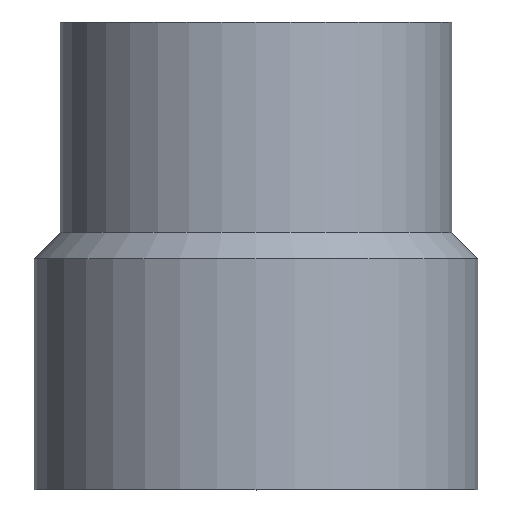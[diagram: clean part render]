
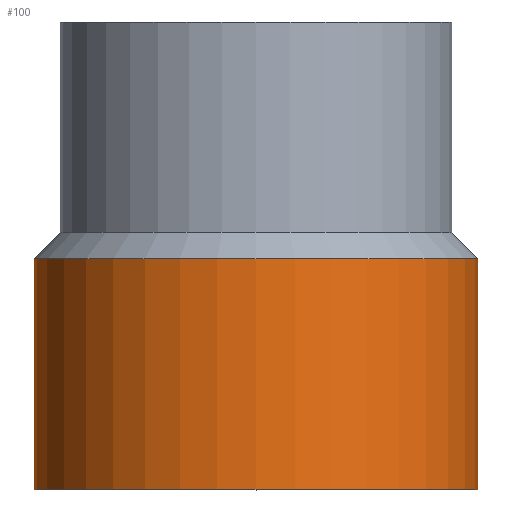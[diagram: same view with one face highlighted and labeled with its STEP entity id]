
A CAD part, top view. The second image highlights one B-rep face of the part: STEP entity #100.
In plain terms, the highlighted cylindrical face has radius 38 mm (diameter 76 mm), a full revolution.
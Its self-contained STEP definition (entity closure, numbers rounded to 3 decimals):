
#21=CYLINDRICAL_SURFACE('',#112,38.);
#26=FACE_BOUND('',#44,.T.);
#34=FACE_OUTER_BOUND('',#43,.T.);
#43=EDGE_LOOP('',(#83));
#44=EDGE_LOOP('',(#84));
#57=CIRCLE('',#110,38.);
#59=CIRCLE('',#113,38.);
#65=VERTEX_POINT('',#167);
#67=VERTEX_POINT('',#172);
#73=EDGE_CURVE('',#65,#65,#57,.T.);
#75=EDGE_CURVE('',#67,#67,#59,.T.);
#83=ORIENTED_EDGE('',*,*,#75,.F.);
#84=ORIENTED_EDGE('',*,*,#73,.T.);
#100=ADVANCED_FACE('',(#34,#26),#21,.T.);
#110=AXIS2_PLACEMENT_3D('',#168,#131,#132);
#112=AXIS2_PLACEMENT_3D('',#171,#135,#136);
#113=AXIS2_PLACEMENT_3D('',#173,#137,#138);
#131=DIRECTION('center_axis',(0.,1.,0.));
#132=DIRECTION('ref_axis',(-1.,0.,0.));
#135=DIRECTION('center_axis',(0.,1.,0.));
#136=DIRECTION('ref_axis',(-1.,0.,0.));
#137=DIRECTION('center_axis',(0.,1.,0.));
#138=DIRECTION('ref_axis',(-1.,0.,0.));
#167=CARTESIAN_POINT('',(-38.,0.,0.));
#168=CARTESIAN_POINT('Origin',(0.,0.,0.));
#171=CARTESIAN_POINT('Origin',(0.,19.75,0.));
#172=CARTESIAN_POINT('',(-38.,39.5,0.));
#173=CARTESIAN_POINT('Origin',(0.,39.5,0.));
